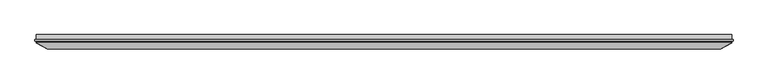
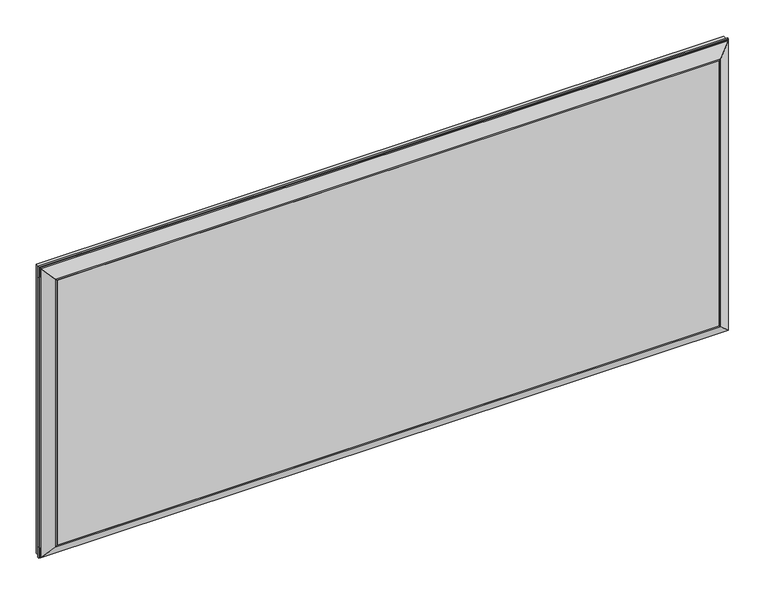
"""IFC4 building model written with IfcOpenShell, lengths in millimetres: proxy geometry, IMPRESS^TABLE 2_48x108 WOOD LEGS-TOP PARTS SOLID."""

from ifc_helpers import new_model, si_unit, frame, origin, place, context, project, spatial, polyline, outline, extrude, faceted_brep, source, transform, mapped, element, save


def generic_models_53dfa362(model_context):
    return source(origin(), model_context, "Body", "SolidModel", [
        extrude(outline(polyline([(50.8, 0.0), (2692.4, 0.0), (2692.4, -38.1), (50.8, -38.1), (50.8, 0.0)])), frame((0.0, 0.0, -1168.4), z_axis=(0.0, 0.0, 1.0), x_axis=(1.0, 0.0, 0.0)), (0.0, 0.0, 1.0), 1117.6),
        extrude(outline(polyline([(-4.7625, 0.0), (2747.9625, 0.0), (2747.9625, -6.35), (-4.7625, -6.35), (-4.7625, 0.0)])), frame((0.0, 0.0, -1223.9625), z_axis=(0.0, 0.0, 1.0), x_axis=(1.0, 0.0, 0.0)), (0.0, 0.0, 1.0), 44.45),
        extrude(outline(polyline([(2703.5125, 0.0), (2747.9625, 0.0), (2747.9625, -6.35), (2703.5125, -6.35), (2703.5125, 0.0)])), frame((0.0, 0.0, -1204.9125), z_axis=(0.0, 0.0, 1.0), x_axis=(1.0, 0.0, 0.0)), (0.0, 0.0, 1.0), 1190.625),
        faceted_brep([(0.0, 0.0, -1219.2), (2743.2, 0.0, -1219.2), (2743.2, -12.7, -1219.2), (0.0, -12.7, -1219.2), (2692.4, 0.0, -1168.4), (2692.4, -38.1, -1168.4), (2699.2059095, -38.1, -1175.2059095), (50.8, 0.0, -1168.4), (43.9940905, -38.1, -1175.2059095), (50.8, -38.1, -1168.4)], [[[0, 1, 2, 3]], [[2, 1, 4, 5, 6]], [[1, 0, 7, 4]], [[2, 6, 8, 3]], [[8, 6, 5, 9]], [[0, 3, 8, 9, 7]], [[4, 7, 9, 5]]]),
        extrude(outline(polyline([(2747.9625, 0.0), (2747.9625, -6.35), (-4.7625, -6.35), (-4.7625, 0.0), (2747.9625, 0.0)])), frame((0.0, 0.0, -39.6875), z_axis=(0.0, 0.0, 1.0), x_axis=(1.0, 0.0, 0.0)), (0.0, 0.0, 1.0), 44.45),
        faceted_brep([(2743.2, 0.0, -1219.2), (2743.2, 0.0, 0.0), (2743.2, -12.7, 0.0), (2743.2, -12.7, -1219.2), (2692.4, 0.0, -50.8), (2692.4, -38.1, -50.8), (2699.2059095, -38.1, -43.9940905), (2692.4, 0.0, -1168.4), (2699.2059095, -38.1, -1175.2059095), (2692.4, -38.1, -1168.4)], [[[0, 1, 2, 3]], [[2, 1, 4, 5, 6]], [[1, 0, 7, 4]], [[2, 6, 8, 3]], [[8, 6, 5, 9]], [[0, 3, 8, 9, 7]], [[4, 7, 9, 5]]]),
        faceted_brep([(0.0, 0.0, 0.0), (0.0, 0.0, -1219.2), (0.0, -12.7, -1219.2), (0.0, -12.7, 0.0), (50.8, 0.0, -1168.4), (50.8, -38.1, -1168.4), (43.9940905, -38.1, -1175.2059095), (50.8, 0.0, -50.8), (43.9940905, -38.1, -43.9940905), (50.8, -38.1, -50.8)], [[[0, 1, 2, 3]], [[2, 1, 4, 5, 6]], [[1, 0, 7, 4]], [[2, 6, 8, 3]], [[0, 3, 8, 9, 7]], [[4, 7, 9, 5]], [[8, 6, 5, 9]]]),
        extrude(outline(polyline([(-4.7625, 0.0), (39.6875, 0.0), (39.6875, -6.35), (-4.7625, -6.35), (-4.7625, 0.0)])), frame((0.0, 0.0, -1204.9125), z_axis=(0.0, 0.0, 1.0), x_axis=(1.0, 0.0, 0.0)), (0.0, 0.0, 1.0), 1190.625),
        extrude(outline(polyline([(2743.2, 0.0), (0.0, 0.0), (0.0, 19.05), (2743.2, 19.05), (2743.2, 0.0)])), frame((0.0, 0.0, -1219.2), z_axis=(0.0, 0.0, 1.0), x_axis=(1.0, 0.0, 0.0)), (0.0, 0.0, 1.0), 1219.2),
        faceted_brep([(2743.2, 0.0, 0.0), (0.0, 0.0, 0.0), (0.0, -12.7, 0.0), (2743.2, -12.7, 0.0), (50.8, 0.0, -50.8), (50.8, -38.1, -50.8), (43.9940905, -38.1, -43.9940905), (2692.4, 0.0, -50.8), (2699.2059095, -38.1, -43.9940905), (2692.4, -38.1, -50.8)], [[[0, 1, 2, 3]], [[2, 1, 4, 5, 6]], [[1, 0, 7, 4]], [[2, 6, 8, 3]], [[8, 6, 5, 9]], [[0, 3, 8, 9, 7]], [[4, 7, 9, 5]]]),
    ])


if __name__ == "__main__":
    model = new_model("IFC4")
    model_context = context("Model", 3, world=origin())
    ifc_project = project(units=[si_unit("LENGTHUNIT", "METRE", prefix="MILLI")], contexts=[model_context])
    site = spatial("IfcSite", under=ifc_project)
    building = spatial("IfcBuilding", under=site)
    placement = place(None, origin())
    generic_models_shape = generic_models_53dfa362(model_context)
    element("IfcBuildingElementProxy", 1, Name="IMPRESS^TABLE 2_48x108 WOOD LEGS-TOP PARTS SOLID", ObjectType="IMPRESS^TABLE 2_48x108 WOOD LEGS-TOP PARTS SOLID", at=placement, inside=building, context=model_context, shape_type="MappedRepresentation", body=[
        mapped(generic_models_shape, transform((0.0, 0.0, 0.0), x_axis=(1.0, 0.0, 0.0), y_axis=(0.0, 1.0, 0.0), z_axis=(0.0, 0.0, 1.0))),
    ])
    save(model, "model.ifc")
